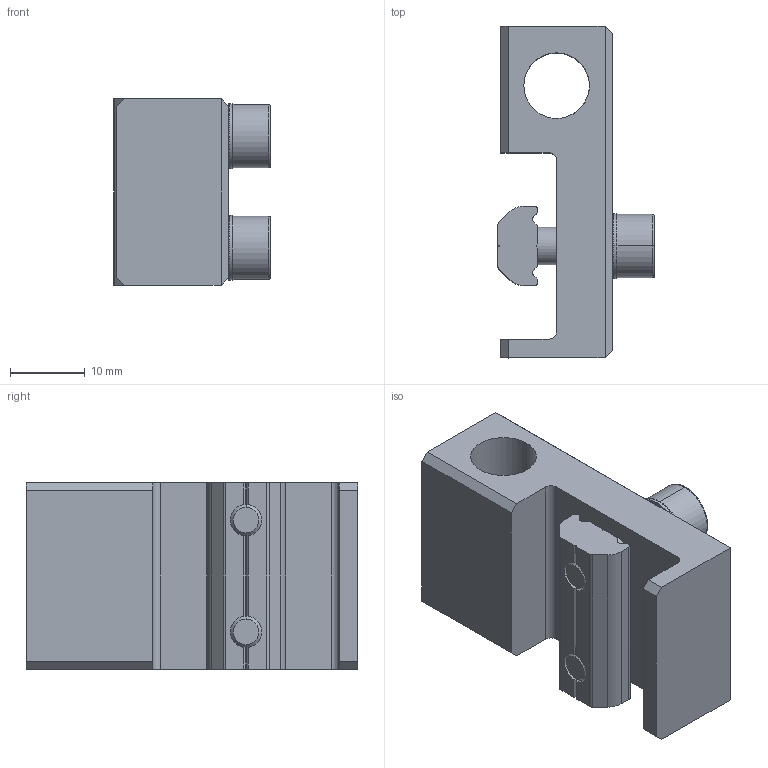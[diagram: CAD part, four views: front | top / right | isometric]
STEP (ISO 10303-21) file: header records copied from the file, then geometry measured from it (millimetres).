
FILE_DESCRIPTION (( 'STEP AP214' ), '1' );
FILE_NAME ('SVB-G18.STEP', '2019-11-07T02:52:09', ( '微软用户' ), ( '微软中国' ), 'SwSTEP 2.0', 'SolidWorks 2016', '' );
FILE_SCHEMA (( 'AUTOMOTIVE_DESIGN' ));
Length unit declared in the file: millimetre
Products named in the file (1): SVB-G18
Bounding box: 21 x 44.5 x 25 mm (x, y, z)
Volume: 12066.9 mm3; surface area: 7133.6 mm2
Topology: 6 solids, 6 shells, 506 faces, 1473 edges, 974 vertices
Faces by surface type: plane 450, cylinder 48, cone 4, bspline 4
Entity records: 22808 total; most frequent: CARTESIAN_POINT 3428, ORIENTED_EDGE 2946, DIRECTION 2897, EDGE_CURVE 1473, VERTEX_POINT 974, VECTOR 967, LINE 967, AXIS2_PLACEMENT_3D 965
